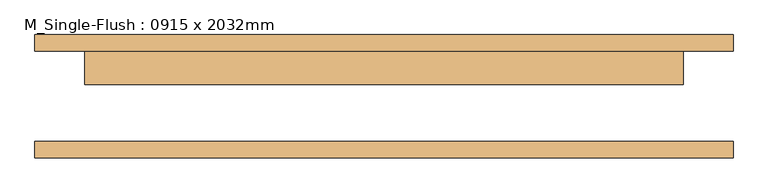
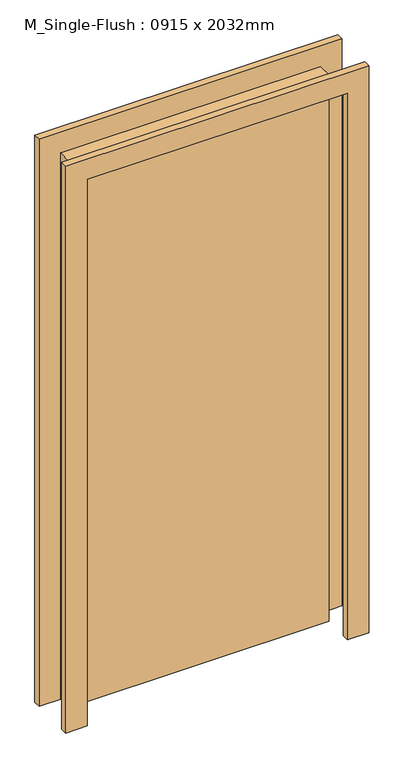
"""IFC4 building model written with IfcOpenShell, lengths in millimetres: door geometry, M_Single-Flush : 0915 x 2032mm."""

from ifc_helpers import new_model, si_unit, frame, origin, origin_with_axes, place, context, project, spatial, polyline, outline, extrude, source, transform, mapped, element, save


def m_single_flush_0915_x_2032mm_d7cd756b(model_context):
    return source(origin(), model_context, "Body", "SweptSolid", [
        extrude(outline(polyline([(2108.0, -533.5), (0.0, -533.5), (0.0, -457.5), (2032.0, -457.5), (2032.0, 457.5), (0.0, 457.5), (0.0, 533.5), (2108.0, 533.5), (2108.0, -533.5)])), frame((0.0, 69.25, 0.0), z_axis=(0.0, 1.0, 0.0), x_axis=(0.0, 0.0, 1.0)), (0.0, 0.0, 1.0), 25.0),
        extrude(outline(polyline([(2108.0, 533.5), (2108.0, -533.5), (0.0, -533.5), (0.0, -457.5), (2032.0, -457.5), (2032.0, 457.5), (0.0, 457.5), (0.0, 533.5), (2108.0, 533.5)])), frame((0.0, -94.25, 0.0), z_axis=(0.0, 1.0, 0.0), x_axis=(0.0, 0.0, 1.0)), (0.0, 0.0, 1.0), 25.0),
        extrude(outline(polyline([(457.5, 18.25), (-457.5, 18.25), (-457.5, 69.25), (457.5, 69.25), (457.5, 18.25)])), origin_with_axes(), (0.0, 0.0, 1.0), 2032.0),
    ])


if __name__ == "__main__":
    model = new_model("IFC4")
    model_context = context("Model", 3, world=origin())
    ifc_project = project(units=[si_unit("LENGTHUNIT", "METRE", prefix="MILLI")], contexts=[model_context])
    site = spatial("IfcSite", under=ifc_project)
    building = spatial("IfcBuilding", under=site)
    placement = place(None, origin())
    m_single_flush_0915_x_2032mm_shape = m_single_flush_0915_x_2032mm_d7cd756b(model_context)
    element("IfcDoor", 1, ObjectType="M_Single-Flush : 0915 x 2032mm", at=placement, inside=building, context=model_context, shape_type="MappedRepresentation", body=[
        mapped(m_single_flush_0915_x_2032mm_shape, transform((0.0, 0.0, 0.0), x_axis=(1.0, 0.0, 0.0), y_axis=(0.0, 1.0, 0.0), z_axis=(0.0, 0.0, 1.0))),
    ])
    save(model, "model.ifc")
